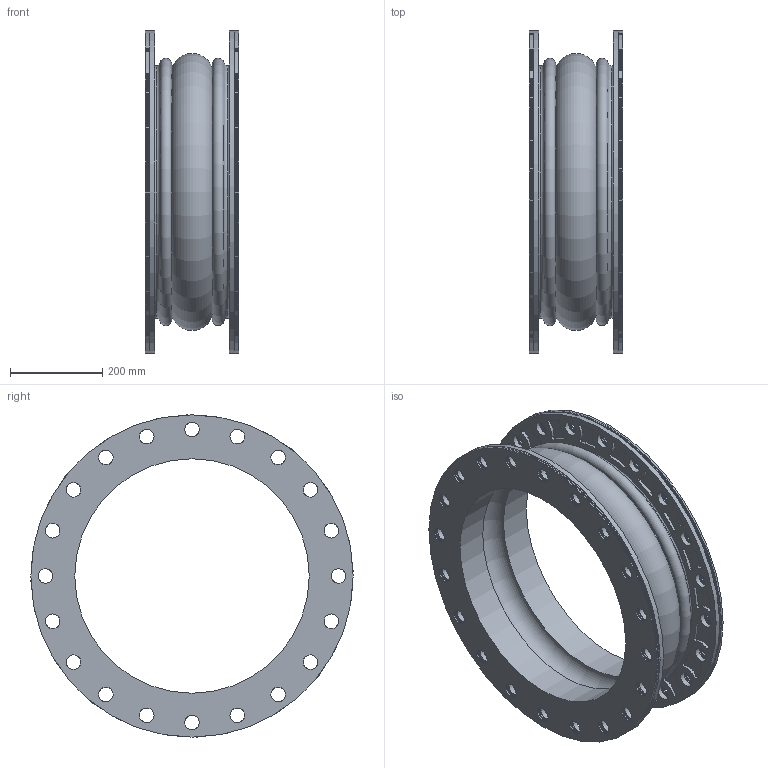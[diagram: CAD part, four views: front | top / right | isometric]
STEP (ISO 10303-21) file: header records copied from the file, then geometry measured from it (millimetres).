
FILE_DESCRIPTION((''),'2;1');
FILE_NAME('N:\StockJoints-ADSK, IGES, STEP, PNG\STEP\451 20x8.stp','2013-05-23T13:30:04',('mquog'),(''),'Autodesk Inventor 2011','Autodesk Inventor 2011','');
FILE_SCHEMA(('AUTOMOTIVE_DESIGN { 1 0 10303 214 1 1 1 1 }'));
Length unit declared in the file: inch
Products named in the file (3): 451 20x8; Style451 20x8; 20DI450BUR150
Assembly tree (3 placements, depth 2):
  451 20x8
    Style451 20x8
    20DI450BUR150  x2
Bounding box: 203.2 x 698.5 x 698.5 mm (x, y, z)
Volume: 12840225 mm3; surface area: 11041444.1 mm2
Topology: 14 solids, 14 shells, 826 faces, 2174 edges, 1426 vertices
Faces by surface type: cylinder 690, plane 78, torus 52, cone 6
Full cylindrical faces by diameter (mm): 31.75 x320, 508 x2, 514.35 x4, 520.7 x8, 522.732 x4, 524.764 x4, 526.796 x4, 528.828 x4, 532.003 x2, 539.75 x2, 695.325 x14, 698.5 x2
Entity records: 18943 total; most frequent: DIRECTION 3516, CARTESIAN_POINT 2894, ORIENTED_EDGE 2432, AXIS2_PLACEMENT_3D 1678, EDGE_LOOP 1672, EDGE_CURVE 1216, VERTEX_POINT 1056, CIRCLE 1056
